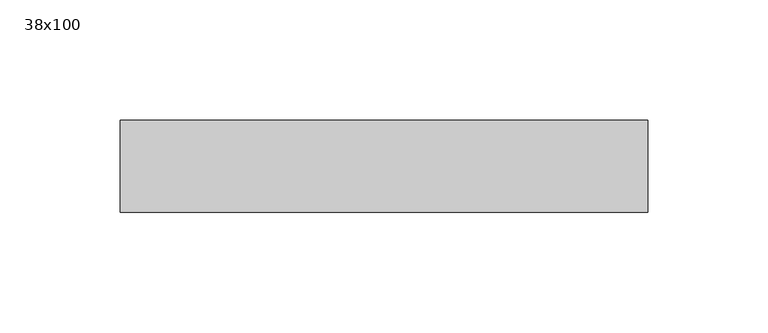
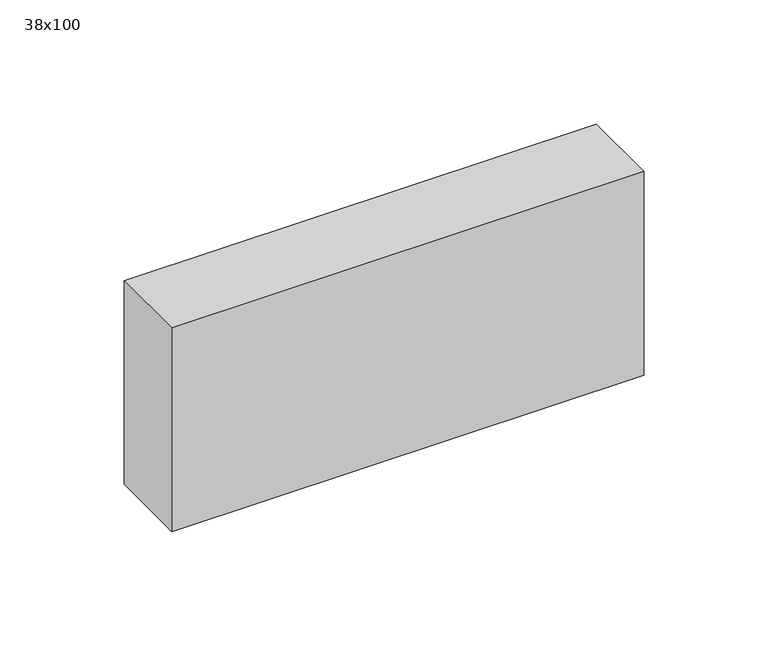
"""IFC4 building model written with IfcOpenShell, lengths in millimetres: beam geometry, Poutre - Bois de construction de dimensions courantes : 38x100."""

from ifc_helpers import new_model, si_unit, frame, origin, place, context, project, spatial, polyline, outline, extrude, source, transform, mapped, element, save


def beam_38x100_a54c65e5(model_context):
    return source(origin(), model_context, "Body", "SweptSolid", [
        extrude(outline(polyline([(102.5, 19.05), (102.5, -19.05), (-116.5, -19.05), (-116.5, 19.05), (102.5, 19.05)])), frame((0.0, 0.0, -50.0), z_axis=(0.0, 0.0, 1.0), x_axis=(1.0, 0.0, 0.0)), (0.0, 0.0, 1.0), 100.0),
    ])


if __name__ == "__main__":
    model = new_model("IFC4")
    model_context = context("Model", 3, world=origin())
    ifc_project = project(units=[si_unit("LENGTHUNIT", "METRE", prefix="MILLI")], contexts=[model_context])
    site = spatial("IfcSite", under=ifc_project)
    building = spatial("IfcBuilding", under=site)
    placement = place(None, origin())
    beam_38x100_shape = beam_38x100_a54c65e5(model_context)
    element("IfcBeam", 1, ObjectType="Poutre - Bois de construction de dimensions courantes : 38x100", at=placement, inside=building, context=model_context, shape_type="MappedRepresentation", body=[
        mapped(beam_38x100_shape, transform((0.0, 0.0, 0.0), x_axis=(1.0, 0.0, 0.0), y_axis=(0.0, 1.0, 0.0), z_axis=(0.0, 0.0, 1.0))),
    ])
    save(model, "model.ifc")
